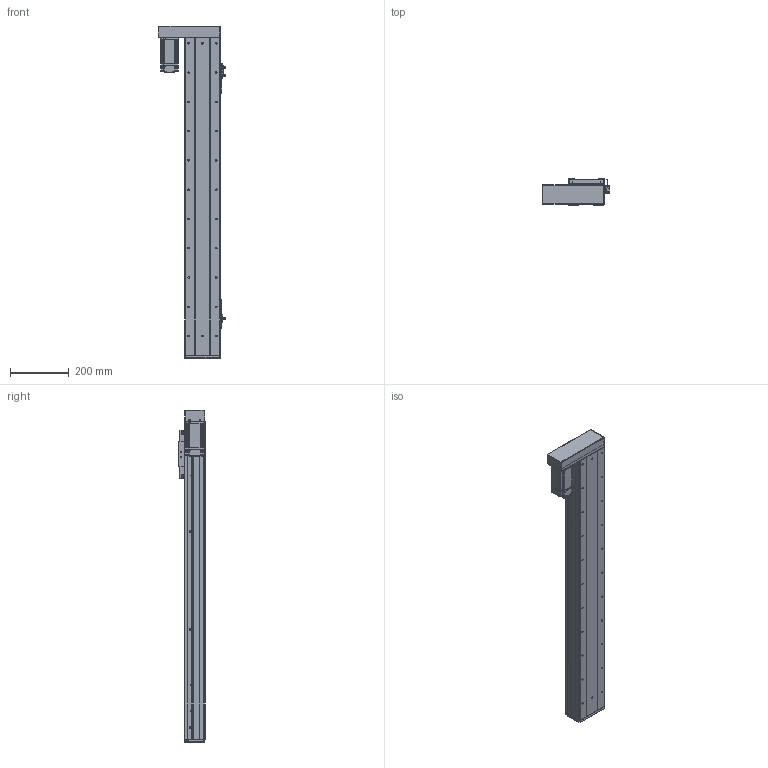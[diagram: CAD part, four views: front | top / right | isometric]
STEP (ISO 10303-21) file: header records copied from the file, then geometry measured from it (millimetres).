
FILE_DESCRIPTION (( 'STEP AP203' ), '1' );
FILE_NAME ('RY120F-L1620-300-LK.SLDASM_850.step', '2021-03-02T08:04:13', ( '盈信电脑' ), ( '东莞市道滘镇水果街19号' ), 'SwSTEP 2.0', 'SolidWorks 2012', '' );
FILE_SCHEMA (( 'CONFIG_CONTROL_DESIGN' ));
Products named in the file (18): RT120F-300-倰第裔啣-LK_850; RT120F-300-倰第菁釱-LK_850; RY120F滅鳥詩湍-300-LK_850; RT120F-臏賑輸奻釱; RT120F-臏賑輸 16蹟譫; RY120F-L1620-300-LK.SLDASM_850; RY120F酘衵殏萇儂啣(200W PCD70 M4); RY120F酘衵殏萇儂欶(200W); FY120F詩湍揤踡輸; RY80俋离覜茼え; 15; 672嫖萇羲壽假蚾釱; 覜茼ん672; RY120F-詩湍幗謫粣; RY120F綴裔啣(臏璃ㄘ; 滅袉蝶18-24; RY120F转折电机端支撑座; RY120F祥凄詩滅鳥裔
Assembly tree (23 placements, depth 2):
  RY120F-L1620-300-LK.SLDASM_850
    RT120F-300-倰第菁釱-LK_850
    RT120F-300-倰第裔啣-LK_850  x2
    RY120F滅鳥詩湍-300-LK_850
    RT120F-臏賑輸 16蹟譫
    RT120F-臏賑輸奻釱
    RY120F转折电机端支撑座
    RY120F祥凄詩滅鳥裔
    滅袉蝶18-24  x2
    RY120F綴裔啣(臏璃ㄘ
    RY120F-詩湍幗謫粣
    覜茼ん672  x3
    672嫖萇羲壽假蚾釱  x2
    RY80俋离覜茼え
    FY120F詩湍揤踡輸  x2
    15
    RY120F酘衵殏萇儂啣(200W PCD70 M4)
    RY120F酘衵殏萇儂欶(200W)
Bounding box: 229.9 x 89 x 1134 mm (x, y, z)
Volume: 3871540.4 mm3; surface area: 1423675.6 mm2
Topology: 23 solids, 23 shells, 2139 faces, 5737 edges, 3643 vertices
Faces by surface type: cylinder 968, plane 896, cone 249, bspline 26
Entity records: 60083 total; most frequent: CARTESIAN_POINT 11122, DIRECTION 10149, ORIENTED_EDGE 9474, EDGE_CURVE 4737, AXIS2_PLACEMENT_3D 3682, VERTEX_POINT 3087, VECTOR 2785, LINE 2785
